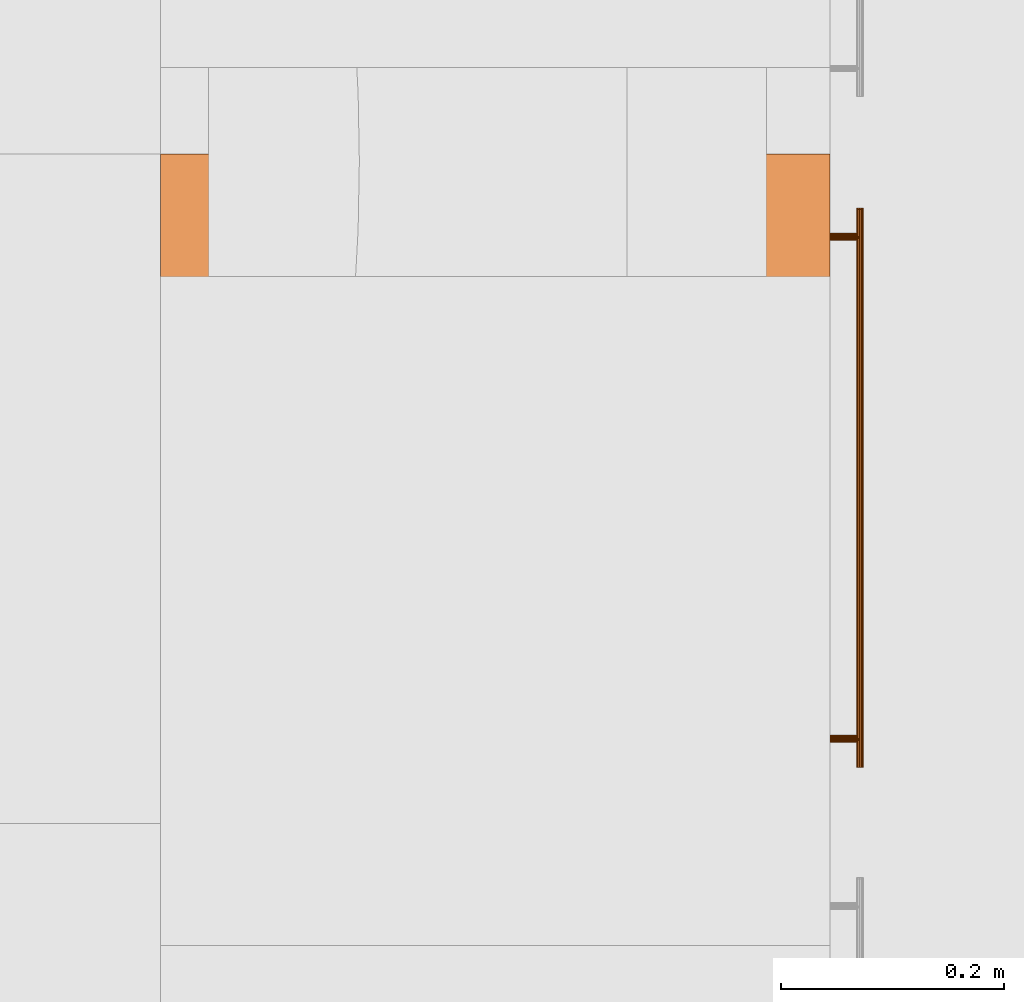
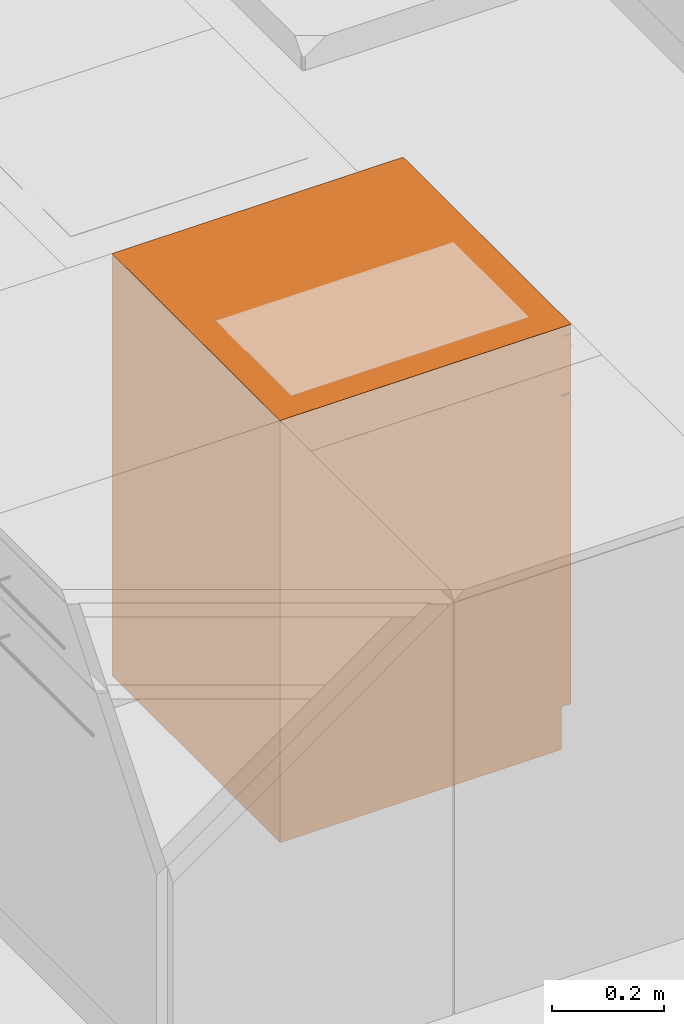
# One storey, part 145 of 167: 1 proxy.
"""IFC2X3 building model written with IfcOpenShell, lengths in millimetres."""

import ifcopenshell
import ifcopenshell.guid

model = None  # the IFC model being written
_history = None  # IfcOwnerHistory: only IFC2X3 demands one
_inside = {}  # id of a spatial element -> (the spatial element, [elements in it])
_under = {}  # id of a project, library or spatial element -> (it, [spatial elements below it])
_declared = {}  # id of a project -> (the project, [libraries it declares])
_typed = {}  # id of a type object -> (the type object, [elements of that type])
_made_of = {}  # id of a material, layer set ... -> (it, [elements and type objects made of it])


def new_model(schema):
    """Start an empty IFC model of exactly this schema.

    Asked for "IFC4X3", IfcOpenShell would pick the latest addendum, in which some entities
    have other attributes; the version numbers below select the first issue.
    IFC2X3 requires an IfcOwnerHistory on every rooted entity: one is made here for all.
    """
    global model, _history
    if schema == "IFC4X3":
        model = ifcopenshell.file(schema_version=(4, 3, 0, 0))
    else:
        model = ifcopenshell.file(schema=schema)
    _inside.clear()
    _under.clear()
    _declared.clear()
    _typed.clear()
    _made_of.clear()
    _history = None
    if model.schema == "IFC2X3":
        org = make("IfcOrganization", Name="unknown")
        user = make(
            "IfcPersonAndOrganization",
            ThePerson=make("IfcPerson", FamilyName="unknown"),
            TheOrganization=org,
        )
        app = make(
            "IfcApplication",
            ApplicationDeveloper=org,
            Version="unknown",
            ApplicationFullName="unknown",
            ApplicationIdentifier="unknown",
        )
        _history = make(
            "IfcOwnerHistory",
            OwningUser=user,
            OwningApplication=app,
            ChangeAction="ADDED",
            CreationDate=0,
        )
    return model


def make(cls, **values):
    """One entity of the class cls with the attributes given. An attribute that is None is left unset."""
    return model.create_entity(
        cls, **{name: value for name, value in values.items() if value is not None}
    )


def entity(cls, *values):
    """Any entity or typed value of the class cls, its attributes in the order of the schema. None: left unset."""
    e = model.create_entity(cls)
    for i, value in enumerate(values):
        if value is not None:
            e[i] = value
    return e


def rooted(cls, **values):
    """An entity with a GlobalId (a new one), such as an element, a storey or a relation."""
    return make(cls, GlobalId=ifcopenshell.guid.new(), OwnerHistory=_history, **values)


def si_unit(unit_type, name, prefix=None):
    """IfcSIUnit, for example si_unit("LENGTHUNIT", "METRE", prefix="MILLI")."""
    return make("IfcSIUnit", UnitType=unit_type, Prefix=prefix, Name=name)


def converted_unit(unit_type, name, factor, base, dimensions=None, offset=None):
    """IfcConversionBasedUnit, such as the inch: factor (a typed value) times the base unit."""
    return make(
        "IfcConversionBasedUnit"
        if offset is None
        else "IfcConversionBasedUnitWithOffset",
        ConversionOffset=offset,
        Dimensions=None
        if dimensions is None
        else entity("IfcDimensionalExponents", *dimensions),
        UnitType=unit_type,
        Name=name,
        ConversionFactor=make(
            "IfcMeasureWithUnit", ValueComponent=factor, UnitComponent=base
        ),
    )


def derived_unit(unit_type, elements):
    """IfcDerivedUnit: a product of units, each with its exponent."""
    return make(
        "IfcDerivedUnit",
        Elements=[
            make("IfcDerivedUnitElement", Unit=unit, Exponent=power)
            for unit, power in elements
        ],
        UnitType=unit_type,
    )


def money_unit(currency):
    """IfcMonetaryUnit."""
    return make("IfcMonetaryUnit", Currency=currency)


def assignment(units):
    """IfcUnitAssignment: the units of a project."""
    return None if units is None else make("IfcUnitAssignment", Units=units)


def point(xyz):
    """IfcCartesianPoint."""
    return None if xyz is None else make("IfcCartesianPoint", Coordinates=xyz)


def direction(xyz):
    """IfcDirection."""
    return None if xyz is None else make("IfcDirection", DirectionRatios=xyz)


def frame(location, z_axis=None, x_axis=None):
    """IfcAxis2Placement3D, a coordinate frame: its origin and axes. An axis left out is left unset."""
    return make(
        "IfcAxis2Placement3D",
        Location=point(location),
        Axis=direction(z_axis),
        RefDirection=direction(x_axis),
    )


def origin_with_axes():
    """The frame at (0, 0, 0) with the z axis (0, 0, 1) and the x axis (1, 0, 0) written out."""
    return frame((0.0, 0.0, 0.0), z_axis=(0.0, 0.0, 1.0), x_axis=(1.0, 0.0, 0.0))


def place(relative_to, where):
    """IfcLocalPlacement: puts the frame where relative to a parent placement (None: the world)."""
    return make(
        "IfcLocalPlacement", PlacementRelTo=relative_to, RelativePlacement=where
    )


def context(
    kind, dimensions, precision=None, world=None, true_north=None, identifier=None
):
    """IfcGeometricRepresentationContext, for example the 3D "Model" context."""
    return make(
        "IfcGeometricRepresentationContext",
        ContextIdentifier=identifier,
        ContextType=kind,
        CoordinateSpaceDimension=dimensions,
        Precision=precision,
        WorldCoordinateSystem=world,
        TrueNorth=true_north,
    )


def subcontext(parent, identifier, kind, view, scale=None):
    """IfcGeometricRepresentationSubContext, for example "Body" below "Model"."""
    return make(
        "IfcGeometricRepresentationSubContext",
        ContextIdentifier=identifier,
        ContextType=kind,
        ParentContext=parent,
        TargetScale=scale,
        TargetView=view,
    )


def project(units=None, contexts=None):
    """IfcProject with its units and contexts."""
    return rooted(
        "IfcProject",
        Name="project",
        RepresentationContexts=contexts,
        UnitsInContext=assignment(units),
    )


def spatial(cls, under=None, at=None, **own):
    """A site, building, storey or space (cls), placed at a placement, below another one or the project."""
    s = rooted(cls, ObjectPlacement=at, **own)
    if under is not None:
        _under.setdefault(under.id(), (under, []))[1].append(s)
    return s


def faces_of(points, faces, orient=None, outer=None):
    """IfcFace entities. A face is a list of loops; a loop is a list of indices into points, from 0.

    orient and outer hold one flag for each loop. By default every Orientation is true, the
    first loop of a face is its IfcFaceOuterBound and the others are IfcFaceBound.
    """
    made = []
    for i, loops in enumerate(faces):
        bounds = []
        for j, loop in enumerate(loops):
            is_outer = j == 0 if outer is None else outer[i][j]
            bounds.append(
                make(
                    "IfcFaceOuterBound" if is_outer else "IfcFaceBound",
                    Bound=make("IfcPolyLoop", Polygon=[points[k] for k in loop]),
                    Orientation=True if orient is None else orient[i][j],
                )
            )
        made.append(make("IfcFace", Bounds=bounds))
    return made


def open_shell(faces, orient=None, outer=None):
    """The faces of one IfcOpenShell. surface_model builds it on its shared points."""
    return ("IfcOpenShell", faces, orient, outer)


def faceted_brep(points, faces, orient=None, outer=None, voids=None):
    """IfcFacetedBrep: a solid bounded by flat faces; with voids (closed shells), ...WithVoids."""
    shared = [point(p) for p in points]
    hull = make("IfcClosedShell", CfsFaces=faces_of(shared, faces, orient, outer))
    if voids is None:
        return make("IfcFacetedBrep", Outer=hull)
    return make(
        "IfcFacetedBrepWithVoids",
        Outer=hull,
        Voids=[
            make(cls, CfsFaces=faces_of(shared, fs, o, b)) for cls, fs, o, b in voids
        ],
    )


def surface_model(cls, points, shells):
    """IfcFaceBasedSurfaceModel or IfcShellBasedSurfaceModel (cls): surfaces that need not close."""
    shared = [point(p) for p in points]
    made = [make(c, CfsFaces=faces_of(shared, fs, o, b)) for c, fs, o, b in shells]
    if cls == "IfcFaceBasedSurfaceModel":
        return make(cls, FbsmFaces=made)
    return make(cls, SbsmBoundary=made)


def shape(context_of_items, identifier, shape_type, items):
    """IfcShapeRepresentation: the items that make up one representation, for example the "Body"."""
    return make(
        "IfcShapeRepresentation",
        ContextOfItems=context_of_items,
        RepresentationIdentifier=identifier,
        RepresentationType=shape_type,
        Items=items,
    )


def made_of(thing, what):
    """Note that an element or type object is made of a material, layer set ...; save() writes the relation."""
    if what is not None:
        _made_of.setdefault(what.id(), (what, []))[1].append(thing)
    return thing


def type_object(cls, material=None, **own):
    """A type object (cls), such as IfcWallType, which elements share."""
    return made_of(rooted(cls, **own), material)


def element(
    cls,
    number,
    at=None,
    inside=None,
    cuts=None,
    type_object=None,
    material=None,
    context=None,
    identifier="Body",
    shape_type=None,
    held_by="IfcProductDefinitionShape",
    body=None,
    shapes=None,
    **own,
):
    """One element of the class cls, such as IfcWall. Its Tag is "e" and its number.

    at: its placement. inside: the storey or other place that contains it. cuts: it is an
    opening in that element (IfcRelVoidsElement). A single representation is given by context,
    identifier, shape_type and body (its items); several are given by shapes. held_by: the class
    of the entity that holds the representations. save() writes the other relations.
    """
    e = rooted(cls, Tag="e%d" % number, ObjectPlacement=at, **own)
    if body is not None:
        shapes = [shape(context, identifier, shape_type, body)]
    if shapes is not None:
        e.Representation = make(held_by, Representations=shapes)
    if inside is not None:
        _inside.setdefault(inside.id(), (inside, []))[1].append(e)
    if cuts is not None:
        rooted(
            "IfcRelVoidsElement", RelatingBuildingElement=cuts, RelatedOpeningElement=e
        )
    if type_object is not None:
        _typed.setdefault(type_object.id(), (type_object, []))[1].append(e)
    return made_of(e, material)


def aggregate(whole, parts):
    """IfcRelAggregates: a whole, such as a stair, and the parts it consists of."""
    return rooted("IfcRelAggregates", RelatingObject=whole, RelatedObjects=parts)


def save(model, path):
    """Write the relations noted so far, then the file.

    IfcRelAggregates (storeys below a building ...), IfcRelContainedInSpatialStructure (elements
    in a storey), IfcRelDefinesByType, IfcRelAssociatesMaterial and IfcRelDeclares: one each for
    every whole, place, type object, material and project.
    """
    for whole, parts in _under.values():
        aggregate(whole, parts)
    for where, things in _inside.values():
        rooted(
            "IfcRelContainedInSpatialStructure",
            RelatedElements=things,
            RelatingStructure=where,
        )
    for kind, things in _typed.values():
        rooted("IfcRelDefinesByType", RelatedObjects=things, RelatingType=kind)
    for what, things in _made_of.values():
        rooted("IfcRelAssociatesMaterial", RelatedObjects=things, RelatingMaterial=what)
    for by, libraries in _declared.values():
        rooted("IfcRelDeclares", RelatingContext=by, RelatedDefinitions=libraries)
    model.write(path)


model = new_model("IFC2X3")

# Units and contexts
model_context = context("Model", 3, precision=0.01, world=origin_with_axes(), true_north=direction((0.0, 1.0)))
plan_context = context("Plan", 3, precision=0.01, world=origin_with_axes(), true_north=direction((0.0, 1.0)))
body_context = subcontext(model_context, "Body", "Model", "MODEL_VIEW")
ifc_project = project(units=[si_unit("LENGTHUNIT", "METRE", prefix="MILLI"), si_unit("AREAUNIT", "SQUARE_METRE"), si_unit("VOLUMEUNIT", "CUBIC_METRE"), converted_unit("PLANEANGLEUNIT", "DEGREE", entity("IfcPlaneAngleMeasure", 0.0174532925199), si_unit("PLANEANGLEUNIT", "RADIAN"), dimensions=[0, 0, 0, 0, 0, 0, 0]), si_unit("SOLIDANGLEUNIT", "STERADIAN"), money_unit("EUR"), converted_unit("TIMEUNIT", "Year", entity("IfcTimeMeasure", 31556926.0), si_unit("TIMEUNIT", "SECOND"), dimensions=[0, 0, 1, 0, 0, 0, 0]), si_unit("MASSUNIT", "GRAM", prefix="KILO"), si_unit("THERMODYNAMICTEMPERATUREUNIT", "DEGREE_CELSIUS"), si_unit("LUMINOUSINTENSITYUNIT", "LUMEN"), si_unit("ENERGYUNIT", "JOULE", prefix="MEGA"), derived_unit("THERMALCONDUCTANCEUNIT", [(si_unit("POWERUNIT", "WATT"), 1), (si_unit("LENGTHUNIT", "METRE"), -1), (si_unit("THERMODYNAMICTEMPERATUREUNIT", "KELVIN"), -1)]), derived_unit("SPECIFICHEATCAPACITYUNIT", [(si_unit("ENERGYUNIT", "JOULE"), 1), (si_unit("MASSUNIT", "GRAM", prefix="KILO"), -1), (si_unit("THERMODYNAMICTEMPERATUREUNIT", "KELVIN"), -1)]), derived_unit("MASSDENSITYUNIT", [(si_unit("MASSUNIT", "GRAM", prefix="KILO"), 1), (si_unit("VOLUMEUNIT", "CUBIC_METRE"), -1)])], contexts=[model_context, plan_context])

# Site, building, storey
site_placement = place(None, origin_with_axes())
site = spatial("IfcSite", under=ifc_project, at=site_placement, Name="Site", CompositionType="ELEMENT")
building_placement = place(site_placement, origin_with_axes())
building = spatial("IfcBuilding", under=site, at=building_placement, Name="Naam gebouw", CompositionType="ELEMENT")
storey_placement = place(building_placement, origin_with_axes())
storey = spatial("IfcBuildingStorey", under=building, at=storey_placement, Name="Begane grond", CompositionType="ELEMENT", Elevation=0.0)

# Proxy
building_element_proxy_type = type_object("IfcBuildingElementProxyType", Name="Kast basis 1D 24", PredefinedType="NOTDEFINED")
proxy_placement = place(storey_placement, frame((26675.0, 27066.7322881, 0.0), z_axis=(0.0, 0.0, 1.0), x_axis=(0.0, 1.0, 0.0)))
element("IfcBuildingElementProxy", 1, at=proxy_placement, inside=storey, type_object=building_element_proxy_type, Name="__Object-x", context=body_context, shape_type="SurfaceModel", body=[
    faceted_brep([(-20.0, 20.0, 760.0), (-20.0, 20.0, 780.0), (-580.0, 20.0, 780.0), (-580.0, 20.0, 760.0), (-20.0, 580.0, 760.0), (-20.0, 580.0, 780.0), (-580.0, 580.0, 780.0), (-580.0, 580.0, 760.0)], [[[0, 1, 2, 3]], [[4, 5, 1, 0]], [[1, 5, 6, 2]], [[3, 2, 6, 7]], [[0, 3, 7, 4]], [[7, 6, 5, 4]]]),
    faceted_brep([(0.0, 20.0, 0.0), (0.0, 20.0, 90.0), (-600.0, 20.0, 90.0), (-600.0, 20.0, 0.0), (0.0, 600.0, 0.0), (0.0, 600.0, 90.0), (-600.0, 600.0, 90.0), (-600.0, 600.0, 0.0)], [[[0, 1, 2, 3]], [[4, 5, 1, 0]], [[1, 5, 6, 2]], [[3, 2, 6, 7]], [[0, 3, 7, 4]], [[7, 6, 5, 4]]]),
    faceted_brep([(0.0, 20.0, 880.0), (0.0, 20.0, 900.0), (-20.0, 20.0, 900.0), (-20.0, 20.0, 880.0), (0.0, 600.0, 880.0), (0.0, 600.0, 900.0), (-20.0, 600.0, 900.0), (-580.0, 600.0, 900.0), (-600.0, 600.0, 900.0), (-600.0, 20.0, 900.0), (-580.0, 20.0, 900.0), (-580.0, 20.0, 880.0), (-600.0, 20.0, 880.0), (-600.0, 600.0, 880.0), (-580.0, 600.0, 880.0), (-20.0, 600.0, 880.0)], [[[0, 1, 2, 3]], [[4, 5, 1, 0]], [[1, 5, 6, 7, 8, 9, 10, 2]], [[3, 2, 10, 11]], [[0, 3, 11, 12, 13, 14, 15, 4]], [[15, 6, 5, 4]], [[14, 7, 6, 15]], [[13, 8, 7, 14]], [[12, 9, 8, 13]], [[11, 10, 9, 12]]]),
    faceted_brep([(0.0, 20.0, 90.0), (0.0, 20.0, 110.0), (-20.0, 20.0, 110.0), (-20.0, 20.0, 90.0), (0.0, 600.0, 90.0), (0.0, 600.0, 110.0), (-20.0, 600.0, 110.0), (-580.0, 600.0, 110.0), (-600.0, 600.0, 110.0), (-600.0, 20.0, 110.0), (-580.0, 20.0, 110.0), (-580.0, 20.0, 90.0), (-600.0, 20.0, 90.0), (-600.0, 600.0, 90.0), (-580.0, 600.0, 90.0), (-20.0, 600.0, 90.0)], [[[0, 1, 2, 3]], [[4, 5, 1, 0]], [[1, 5, 6, 7, 8, 9, 10, 2]], [[3, 2, 10, 11]], [[0, 3, 11, 12, 13, 14, 15, 4]], [[15, 6, 5, 4]], [[14, 7, 6, 15]], [[13, 8, 7, 14]], [[12, 9, 8, 13]], [[11, 10, 9, 12]]]),
    faceted_brep([(0.0, 20.0, 110.0), (0.0, 20.0, 880.0), (-20.0, 20.0, 880.0), (-20.0, 20.0, 110.0), (0.0, 600.0, 110.0), (0.0, 600.0, 880.0), (-600.0, 600.0, 880.0), (-600.0, 20.0, 880.0), (-580.0, 20.0, 880.0), (-580.0, 580.0, 880.0), (-20.0, 580.0, 880.0), (-20.0, 580.0, 110.0), (-580.0, 580.0, 110.0), (-580.0, 20.0, 110.0), (-600.0, 20.0, 110.0), (-600.0, 600.0, 110.0)], [[[0, 1, 2, 3]], [[4, 5, 1, 0]], [[1, 5, 6, 7, 8, 9, 10, 2]], [[3, 2, 10, 11]], [[0, 3, 11, 12, 13, 14, 15, 4]], [[15, 6, 5, 4]], [[14, 7, 6, 15]], [[13, 8, 7, 14]], [[12, 9, 8, 13]], [[11, 10, 9, 12]]]),
    faceted_brep([(-580.0, 20.0, 410.0), (-580.0, 20.0, 430.0), (-580.0, 580.0, 430.0), (-580.0, 580.0, 410.0), (-20.0, 20.0, 410.0), (-20.0, 20.0, 430.0), (-20.0, 580.0, 430.0), (-20.0, 580.0, 410.0)], [[[0, 1, 2, 3]], [[4, 5, 1, 0]], [[1, 5, 6, 2]], [[3, 2, 6, 7]], [[0, 3, 7, 4]], [[7, 6, 5, 4]]]),
    faceted_brep([(0.0, 0.0, 900.0), (0.0, 0.0, 920.0), (-600.0, 0.0, 920.0), (-600.0, 0.0, 900.0), (0.0, 600.0, 900.0), (0.0, 600.0, 920.0), (-600.0, 600.0, 920.0), (-600.0, 600.0, 900.0)], [[[0, 1, 2, 3]], [[4, 5, 1, 0]], [[1, 5, 6, 2]], [[3, 2, 6, 7]], [[0, 3, 7, 4]], [[7, 6, 5, 4]]]),
    faceted_brep([(-1.5, 20.0, 771.5), (-1.5, 0.0, 771.5), (-598.5, 0.0, 771.5), (-598.5, 20.0, 771.5), (-1.5, 20.0, 898.5), (-1.5, 0.0, 898.5), (-598.5, 0.0, 898.5), (-598.5, 20.0, 898.5)], [[[0, 1, 2, 3]], [[4, 5, 1, 0]], [[1, 5, 6, 2]], [[3, 2, 6, 7]], [[0, 3, 7, 4]], [[7, 6, 5, 4]]]),
    faceted_brep([(-50.0, -28.1480502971, 832.228361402), (-50.0, -27.0, 832.0), (-50.0, -25.8519497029, 832.228361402), (-50.0, -24.8786796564, 832.878679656), (-50.0, -24.2283614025, 833.851949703), (-50.0, -24.0, 835.0), (-50.0, -24.2283614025, 836.148050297), (-50.0, -24.8786796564, 837.121320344), (-50.0, -25.8519497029, 837.771638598), (-50.0, -27.0, 838.0), (-50.0, -28.1480502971, 837.771638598), (-50.0, -29.1213203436, 837.121320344), (-50.0, -29.7716385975, 836.148050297), (-50.0, -30.0, 835.0), (-50.0, -29.7716385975, 833.851949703), (-50.0, -29.1213203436, 832.878679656), (-550.0, -28.1480502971, 832.228361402), (-550.0, -27.0, 832.0), (-550.0, -25.8519497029, 832.228361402), (-550.0, -24.8786796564, 832.878679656), (-550.0, -24.2283614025, 833.851949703), (-550.0, -24.0, 835.0), (-550.0, -24.2283614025, 836.148050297), (-550.0, -24.8786796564, 837.121320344), (-550.0, -25.8519497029, 837.771638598), (-550.0, -27.0, 838.0), (-550.0, -28.1480502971, 837.771638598), (-550.0, -29.1213203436, 837.121320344), (-550.0, -29.7716385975, 836.148050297), (-550.0, -30.0, 835.0), (-550.0, -29.7716385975, 833.851949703), (-550.0, -29.1213203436, 832.878679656)], [[[0, 1, 2, 3, 4, 5, 6, 7, 8, 9, 10, 11, 12, 13, 14, 15]], [[0, 16, 17, 1]], [[1, 17, 18, 2]], [[2, 18, 19, 3]], [[3, 19, 20, 4]], [[4, 20, 21, 5]], [[5, 21, 22, 6]], [[6, 22, 23, 7]], [[7, 23, 24, 8]], [[8, 24, 25, 9]], [[9, 25, 26, 10]], [[10, 26, 27, 11]], [[11, 27, 28, 12]], [[12, 28, 29, 13]], [[13, 29, 30, 14]], [[14, 30, 31, 15]], [[15, 31, 16, 0]], [[16, 31, 30, 29, 28, 27, 26, 25, 24, 23, 22, 21, 20, 19, 18, 17]]]),
    surface_model("IfcShellBasedSurfaceModel", [(-72.6903011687, -24.156637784, 834.043291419), (-72.6903011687, 0.0, 834.043291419), (-72.5, 0.0, 835.0), (-72.5, -24.0, 835.0), (-73.232233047, -24.5761600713, 833.232233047), (-73.232233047, 0.0, 833.232233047), (-74.0432914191, 0.0, 832.690301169), (-75.0, 0.0, 832.5), (-75.9567085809, 0.0, 832.690301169), (-76.767766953, 0.0, 833.232233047), (-77.3096988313, 0.0, 834.043291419), (-77.5, 0.0, 835.0), (-77.3096988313, 0.0, 835.956708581), (-76.767766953, 0.0, 836.767766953), (-75.9567085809, 0.0, 837.309698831), (-75.0, 0.0, 837.5), (-74.0432914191, 0.0, 837.309698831), (-73.232233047, 0.0, 836.767766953), (-72.6903011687, 0.0, 835.956708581), (-72.6903011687, -24.156637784, 835.956708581), (-74.0432914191, -25.0855049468, 832.690301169), (-75.0, -25.3416876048, 832.5), (-75.9567085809, -25.0855049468, 832.690301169), (-76.767766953, -24.5761600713, 833.232233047), (-77.3096988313, -24.156637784, 834.043291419), (-77.5, -24.0, 835.0), (-77.3096988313, -24.156637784, 835.956708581), (-76.767766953, -24.5761600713, 836.767766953), (-75.9567085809, -25.0855049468, 837.309698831), (-75.0, -25.3416876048, 837.5), (-74.0432914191, -25.0855049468, 837.309698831), (-73.232233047, -24.5761600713, 836.767766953)], [open_shell([[[0, 1, 2, 3]], [[4, 5, 1, 0]], [[1, 5, 6, 7, 8, 9, 10, 11, 12, 13, 14, 15, 16, 17, 18, 2]], [[3, 2, 18, 19]], [[20, 6, 5, 4]], [[21, 7, 6, 20]], [[22, 8, 7, 21]], [[23, 9, 8, 22]], [[24, 10, 9, 23]], [[25, 11, 10, 24]], [[26, 12, 11, 25]], [[27, 13, 12, 26]], [[28, 14, 13, 27]], [[29, 15, 14, 28]], [[30, 16, 15, 29]], [[31, 17, 16, 30]], [[19, 18, 17, 31]]])]),
    surface_model("IfcShellBasedSurfaceModel", [(-522.690301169, -24.156637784, 834.043291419), (-522.690301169, 0.0, 834.043291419), (-522.5, 0.0, 835.0), (-522.5, -24.0, 835.0), (-523.232233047, -24.5761600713, 833.232233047), (-523.232233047, 0.0, 833.232233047), (-524.043291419, 0.0, 832.690301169), (-525.0, 0.0, 832.5), (-525.956708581, 0.0, 832.690301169), (-526.767766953, 0.0, 833.232233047), (-527.309698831, 0.0, 834.043291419), (-527.5, 0.0, 835.0), (-527.309698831, 0.0, 835.956708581), (-526.767766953, 0.0, 836.767766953), (-525.956708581, 0.0, 837.309698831), (-525.0, 0.0, 837.5), (-524.043291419, 0.0, 837.309698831), (-523.232233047, 0.0, 836.767766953), (-522.690301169, 0.0, 835.956708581), (-522.690301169, -24.156637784, 835.956708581), (-524.043291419, -25.0855049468, 832.690301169), (-525.0, -25.3416876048, 832.5), (-525.956708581, -25.0855049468, 832.690301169), (-526.767766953, -24.5761600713, 833.232233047), (-527.309698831, -24.156637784, 834.043291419), (-527.5, -24.0, 835.0), (-527.309698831, -24.156637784, 835.956708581), (-526.767766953, -24.5761600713, 836.767766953), (-525.956708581, -25.0855049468, 837.309698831), (-525.0, -25.3416876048, 837.5), (-524.043291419, -25.0855049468, 837.309698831), (-523.232233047, -24.5761600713, 836.767766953)], [open_shell([[[0, 1, 2, 3]], [[4, 5, 1, 0]], [[1, 5, 6, 7, 8, 9, 10, 11, 12, 13, 14, 15, 16, 17, 18, 2]], [[3, 2, 18, 19]], [[20, 6, 5, 4]], [[21, 7, 6, 20]], [[22, 8, 7, 21]], [[23, 9, 8, 22]], [[24, 10, 9, 23]], [[25, 11, 10, 24]], [[26, 12, 11, 25]], [[27, 13, 12, 26]], [[28, 14, 13, 27]], [[29, 15, 14, 28]], [[30, 16, 15, 29]], [[31, 17, 16, 30]], [[19, 18, 17, 31]]])]),
    faceted_brep([(-1.5, 20.0, 91.5), (-1.5, 0.0, 91.5), (-598.5, 0.0, 91.5), (-598.5, 20.0, 91.5), (-1.5, 20.0, 768.5), (-1.5, 0.0, 768.5), (-598.5, 0.0, 768.5), (-598.5, 20.0, 768.5)], [[[0, 1, 2, 3]], [[4, 5, 1, 0]], [[1, 5, 6, 2]], [[3, 2, 6, 7]], [[0, 3, 7, 4]], [[7, 6, 5, 4]]]),
    faceted_brep([(-48.5, -28.1480502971, 704.694261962), (-48.5, -27.0, 704.46590056), (-48.5, -25.8519497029, 704.694261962), (-48.5, -24.8786796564, 705.344580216), (-48.5, -24.2283614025, 706.317850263), (-48.5, -24.0, 707.46590056), (-48.5, -24.2283614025, 708.613950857), (-48.5, -24.8786796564, 709.587220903), (-48.5, -25.8519497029, 710.237539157), (-48.5, -27.0, 710.46590056), (-48.5, -28.1480502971, 710.237539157), (-48.5, -29.1213203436, 709.587220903), (-48.5, -29.7716385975, 708.613950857), (-48.5, -30.0, 707.46590056), (-48.5, -29.7716385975, 706.317850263), (-48.5, -29.1213203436, 705.344580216), (-548.5, -28.1480502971, 704.694261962), (-548.5, -27.0, 704.46590056), (-548.5, -25.8519497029, 704.694261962), (-548.5, -24.8786796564, 705.344580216), (-548.5, -24.2283614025, 706.317850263), (-548.5, -24.0, 707.46590056), (-548.5, -24.2283614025, 708.613950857), (-548.5, -24.8786796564, 709.587220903), (-548.5, -25.8519497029, 710.237539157), (-548.5, -27.0, 710.46590056), (-548.5, -28.1480502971, 710.237539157), (-548.5, -29.1213203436, 709.587220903), (-548.5, -29.7716385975, 708.613950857), (-548.5, -30.0, 707.46590056), (-548.5, -29.7716385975, 706.317850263), (-548.5, -29.1213203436, 705.344580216)], [[[0, 1, 2, 3, 4, 5, 6, 7, 8, 9, 10, 11, 12, 13, 14, 15]], [[0, 16, 17, 1]], [[1, 17, 18, 2]], [[2, 18, 19, 3]], [[3, 19, 20, 4]], [[4, 20, 21, 5]], [[5, 21, 22, 6]], [[6, 22, 23, 7]], [[7, 23, 24, 8]], [[8, 24, 25, 9]], [[9, 25, 26, 10]], [[10, 26, 27, 11]], [[11, 27, 28, 12]], [[12, 28, 29, 13]], [[13, 29, 30, 14]], [[14, 30, 31, 15]], [[15, 31, 16, 0]], [[16, 31, 30, 29, 28, 27, 26, 25, 24, 23, 22, 21, 20, 19, 18, 17]]]),
    surface_model("IfcShellBasedSurfaceModel", [(-71.1903011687, -24.156637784, 706.509191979), (-71.1903011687, 0.0, 706.509191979), (-71.0, 0.0, 707.46590056), (-71.0, -24.0, 707.46590056), (-71.732233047, -24.5761600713, 705.698133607), (-71.732233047, 0.0, 705.698133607), (-72.5432914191, 0.0, 705.156201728), (-73.5, 0.0, 704.96590056), (-74.4567085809, 0.0, 705.156201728), (-75.267766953, 0.0, 705.698133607), (-75.8096988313, 0.0, 706.509191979), (-76.0, 0.0, 707.46590056), (-75.8096988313, 0.0, 708.422609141), (-75.267766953, 0.0, 709.233667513), (-74.4567085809, 0.0, 709.775599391), (-73.5, 0.0, 709.96590056), (-72.5432914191, 0.0, 709.775599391), (-71.732233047, 0.0, 709.233667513), (-71.1903011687, 0.0, 708.422609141), (-71.1903011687, -24.156637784, 708.422609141), (-72.5432914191, -25.0855049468, 705.156201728), (-73.5, -25.3416876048, 704.96590056), (-74.4567085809, -25.0855049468, 705.156201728), (-75.267766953, -24.5761600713, 705.698133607), (-75.8096988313, -24.156637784, 706.509191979), (-76.0, -24.0, 707.46590056), (-75.8096988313, -24.156637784, 708.422609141), (-75.267766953, -24.5761600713, 709.233667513), (-74.4567085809, -25.0855049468, 709.775599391), (-73.5, -25.3416876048, 709.96590056), (-72.5432914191, -25.0855049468, 709.775599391), (-71.732233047, -24.5761600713, 709.233667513)], [open_shell([[[0, 1, 2, 3]], [[4, 5, 1, 0]], [[1, 5, 6, 7, 8, 9, 10, 11, 12, 13, 14, 15, 16, 17, 18, 2]], [[3, 2, 18, 19]], [[20, 6, 5, 4]], [[21, 7, 6, 20]], [[22, 8, 7, 21]], [[23, 9, 8, 22]], [[24, 10, 9, 23]], [[25, 11, 10, 24]], [[26, 12, 11, 25]], [[27, 13, 12, 26]], [[28, 14, 13, 27]], [[29, 15, 14, 28]], [[30, 16, 15, 29]], [[31, 17, 16, 30]], [[19, 18, 17, 31]]])]),
    surface_model("IfcShellBasedSurfaceModel", [(-521.190301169, -24.156637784, 706.509191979), (-521.190301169, 0.0, 706.509191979), (-521.0, 0.0, 707.46590056), (-521.0, -24.0, 707.46590056), (-521.732233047, -24.5761600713, 705.698133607), (-521.732233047, 0.0, 705.698133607), (-522.543291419, 0.0, 705.156201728), (-523.5, 0.0, 704.96590056), (-524.456708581, 0.0, 705.156201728), (-525.267766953, 0.0, 705.698133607), (-525.809698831, 0.0, 706.509191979), (-526.0, 0.0, 707.46590056), (-525.809698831, 0.0, 708.422609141), (-525.267766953, 0.0, 709.233667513), (-524.456708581, 0.0, 709.775599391), (-523.5, 0.0, 709.96590056), (-522.543291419, 0.0, 709.775599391), (-521.732233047, 0.0, 709.233667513), (-521.190301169, 0.0, 708.422609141), (-521.190301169, -24.156637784, 708.422609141), (-522.543291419, -25.0855049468, 705.156201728), (-523.5, -25.3416876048, 704.96590056), (-524.456708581, -25.0855049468, 705.156201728), (-525.267766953, -24.5761600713, 705.698133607), (-525.809698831, -24.156637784, 706.509191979), (-526.0, -24.0, 707.46590056), (-525.809698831, -24.156637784, 708.422609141), (-525.267766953, -24.5761600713, 709.233667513), (-524.456708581, -25.0855049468, 709.775599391), (-523.5, -25.3416876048, 709.96590056), (-522.543291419, -25.0855049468, 709.775599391), (-521.732233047, -24.5761600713, 709.233667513)], [open_shell([[[0, 1, 2, 3]], [[4, 5, 1, 0]], [[1, 5, 6, 7, 8, 9, 10, 11, 12, 13, 14, 15, 16, 17, 18, 2]], [[3, 2, 18, 19]], [[20, 6, 5, 4]], [[21, 7, 6, 20]], [[22, 8, 7, 21]], [[23, 9, 8, 22]], [[24, 10, 9, 23]], [[25, 11, 10, 24]], [[26, 12, 11, 25]], [[27, 13, 12, 26]], [[28, 14, 13, 27]], [[29, 15, 14, 28]], [[30, 16, 15, 29]], [[31, 17, 16, 30]], [[19, 18, 17, 31]]])]),
])

save(model, "model.ifc")
